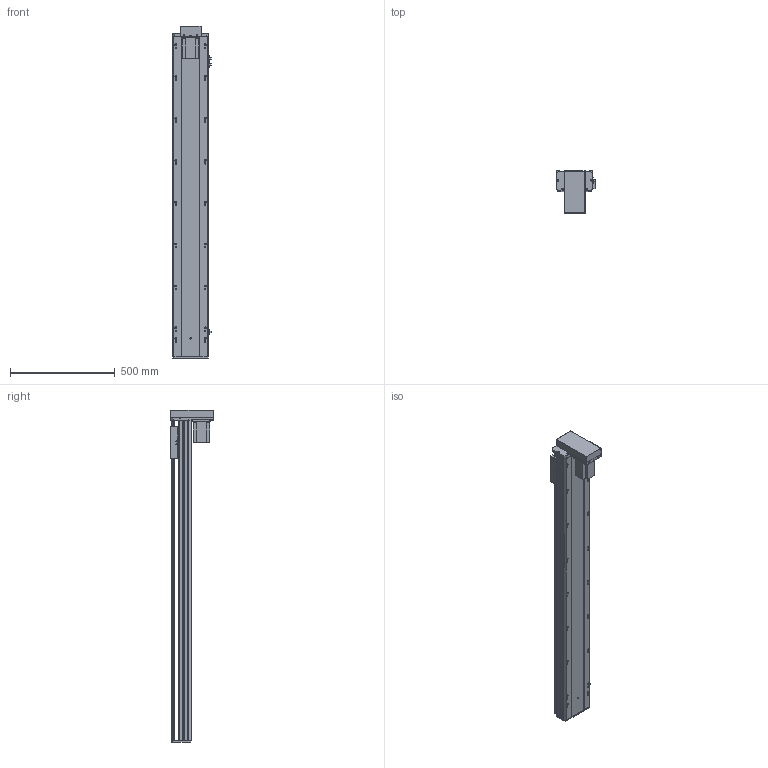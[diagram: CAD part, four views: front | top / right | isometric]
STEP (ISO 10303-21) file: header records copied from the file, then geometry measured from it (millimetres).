
FILE_DESCRIPTION (( 'STEP AP203' ), '1' );
FILE_NAME ('Y170-D10-S1300-BM-P750W.STEP', '2020-01-22T03:26:24', ( '微软用户' ), ( '微软中国' ), 'SwSTEP 2.0', 'SolidWorks 2017', '' );
FILE_SCHEMA (( 'CONFIG_CONTROL_DESIGN' ));
Length unit declared in the file: millimetre
Products named in the file (12): Y170-BM--P750W楊擘啣; -BM俋袗; Y170耜裔--準---; YD-Y100-135-新外置传感挡片(通用）; 170--掛极-BR; Y100-135俋离換覜ん; 侂狟750W; Y170-D10-S1300-BM-P750W; EGH20賑輸_蕼偞; Y雄赽釱-耜蚾; Y170-陔遴奻裔-BR; 170-BM耜蚾蟀諉啣
Assembly tree (14 placements, depth 2):
  Y170-D10-S1300-BM-P750W
    Y170耜裔--準---
    170--掛极-BR
    侂狟750W
    EGH20賑輸_蕼偞  x2
    Y雄赽釱-耜蚾
    Y170-陔遴奻裔-BR
    170-BM耜蚾蟀諉啣
    Y170-BM--P750W楊擘啣
    -BM俋袗
    YD-Y100-135-新外置传感挡片(通用）
    Y100-135俋离換覜ん  x3
Bounding box: 183.5 x 203.5 x 1583.5 mm (x, y, z)
Volume: 7170507.8 mm3; surface area: 2505831.1 mm2
Topology: 14 solids, 14 shells, 942 faces, 2700 edges, 1782 vertices
Faces by surface type: cylinder 490, plane 436, cone 16
Entity records: 30346 total; most frequent: CARTESIAN_POINT 5527, DIRECTION 4984, ORIENTED_EDGE 4896, EDGE_CURVE 2448, AXIS2_PLACEMENT_3D 1779, VERTEX_POINT 1626, LINE 1426, VECTOR 1426
